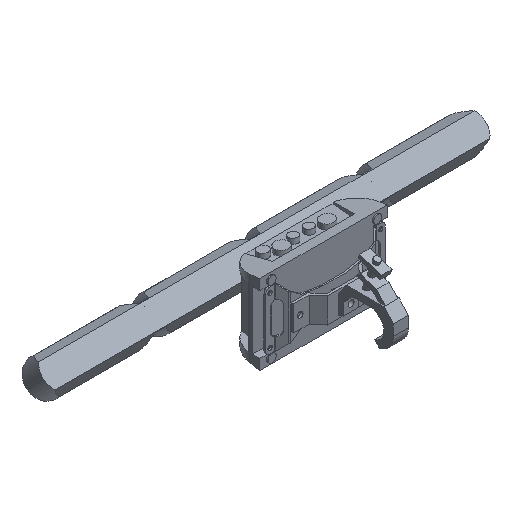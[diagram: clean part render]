
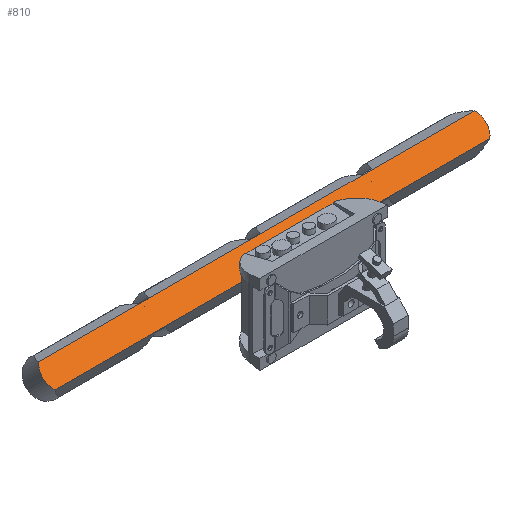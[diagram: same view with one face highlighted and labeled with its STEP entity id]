
A CAD part, isometric view. The second image highlights one B-rep face of the part: STEP entity #810.
In plain terms, the highlighted planar face has unit normal (0, -0.707, 0.707) as drawn and (0, -0.77, -0.638) by its records, which use the part's own axes.
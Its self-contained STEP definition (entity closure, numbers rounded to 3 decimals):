
#810 = ADVANCED_FACE( '', ( #1679 ), #1680, .F. );
#1679 = FACE_OUTER_BOUND( '', #2693, .T. );
#1680 = PLANE( '', #2694 );
#2693 = EDGE_LOOP( '', ( #4680, #4681, #4682, #4683, #4684, #4685, #4686, #4687 ) );
#2694 = AXIS2_PLACEMENT_3D( '', #4688, #4689, #4690 );
#4680 = ORIENTED_EDGE( '', *, *, #5752, .F. );
#4681 = ORIENTED_EDGE( '', *, *, #5388, .T. );
#4682 = ORIENTED_EDGE( '', *, *, #5694, .F. );
#4683 = ORIENTED_EDGE( '', *, *, #5683, .T. );
#4684 = ORIENTED_EDGE( '', *, *, #5503, .F. );
#4685 = ORIENTED_EDGE( '', *, *, #6131, .F. );
#4686 = ORIENTED_EDGE( '', *, *, #5926, .F. );
#4687 = ORIENTED_EDGE( '', *, *, #5556, .F. );
#4688 = CARTESIAN_POINT( '', ( 440., -35.638, 13.65 ) );
#4689 = DIRECTION( '', ( 0., 0.77, 0.638 ) );
#4690 = DIRECTION( '', ( 0., -0.638, 0.77 ) );
#5388 = EDGE_CURVE( '', #6354, #6355, #6356, .T. );
#5503 = EDGE_CURVE( '', #6551, #6554, #6555, .T. );
#5556 = EDGE_CURVE( '', #6641, #6644, #6645, .T. );
#5683 = EDGE_CURVE( '', #6858, #6554, #6859, .T. );
#5694 = EDGE_CURVE( '', #6858, #6355, #6875, .T. );
#5752 = EDGE_CURVE( '', #6354, #6641, #6964, .T. );
#5926 = EDGE_CURVE( '', #6644, #7216, #7217, .T. );
#6131 = EDGE_CURVE( '', #7216, #6551, #7483, .T. );
#6354 = VERTEX_POINT( '', #7732 );
#6355 = VERTEX_POINT( '', #7733 );
#6356 = LINE( '', #7734, #7735 );
#6551 = VERTEX_POINT( '', #8013 );
#6554 = VERTEX_POINT( '', #8016 );
#6555 = CIRCLE( '', #8017, 35.021 );
#6641 = VERTEX_POINT( '', #8131 );
#6644 = VERTEX_POINT( '', #8135 );
#6645 = LINE( '', #8136, #8137 );
#6858 = VERTEX_POINT( '', #8450 );
#6859 = LINE( '', #8451, #8452 );
#6875 = CIRCLE( '', #8490, 35.021 );
#6964 = CIRCLE( '', #8631, 35.021 );
#7216 = VERTEX_POINT( '', #9004 );
#7217 = CIRCLE( '', #9005, 35.021 );
#7483 = LINE( '', #9457, #9458 );
#7732 = CARTESIAN_POINT( '', ( 432.106, -35.638, 13.65 ) );
#7733 = CARTESIAN_POINT( '', ( -432.106, -35.638, 13.65 ) );
#7734 = CARTESIAN_POINT( '', ( 440., -35.638, 13.65 ) );
#7735 = VECTOR( '', #9734, 1000. );
#8013 = CARTESIAN_POINT( '', ( -431.772, -6.86, -21.056 ) );
#8016 = CARTESIAN_POINT( '', ( -440., -19.24, -6.125 ) );
#8017 = AXIS2_PLACEMENT_3D( '', #9874, #9875, #9876 );
#8131 = CARTESIAN_POINT( '', ( 440., -23.51, -0.976 ) );
#8135 = CARTESIAN_POINT( '', ( 440., -19.24, -6.125 ) );
#8136 = CARTESIAN_POINT( '', ( 440., -35.638, 13.65 ) );
#8137 = VECTOR( '', #9942, 1000. );
#8450 = CARTESIAN_POINT( '', ( -440., -23.51, -0.976 ) );
#8451 = CARTESIAN_POINT( '', ( -440., -35.638, 13.65 ) );
#8452 = VECTOR( '', #10096, 1000. );
#8490 = AXIS2_PLACEMENT_3D( '', #10109, #10110, #10111 );
#8631 = AXIS2_PLACEMENT_3D( '', #10179, #10180, #10181 );
#9004 = CARTESIAN_POINT( '', ( 431.772, -6.86, -21.056 ) );
#9005 = AXIS2_PLACEMENT_3D( '', #10386, #10387, #10388 );
#9457 = CARTESIAN_POINT( '', ( 440., -6.86, -21.056 ) );
#9458 = VECTOR( '', #10606, 1000. );
#9734 = DIRECTION( '', ( -1., 0., 0. ) );
#9874 = CARTESIAN_POINT( '', ( -405.139, -21.375, -3.55 ) );
#9875 = DIRECTION( '', ( 0., 0.77, 0.638 ) );
#9876 = DIRECTION( '', ( 0., -0.638, 0.77 ) );
#9942 = DIRECTION( '', ( 0., 0.638, -0.77 ) );
#10096 = DIRECTION( '', ( 0., 0.638, -0.77 ) );
#10109 = CARTESIAN_POINT( '', ( -405.139, -21.375, -3.55 ) );
#10110 = DIRECTION( '', ( 0., 0.77, 0.638 ) );
#10111 = DIRECTION( '', ( 0., -0.638, 0.77 ) );
#10179 = CARTESIAN_POINT( '', ( 405.139, -21.375, -3.55 ) );
#10180 = DIRECTION( '', ( 0., 0.77, 0.638 ) );
#10181 = DIRECTION( '', ( 0., -0.638, 0.77 ) );
#10386 = CARTESIAN_POINT( '', ( 405.139, -21.375, -3.55 ) );
#10387 = DIRECTION( '', ( 0., 0.77, 0.638 ) );
#10388 = DIRECTION( '', ( 0., -0.638, 0.77 ) );
#10606 = DIRECTION( '', ( -1., 0., 0. ) );
